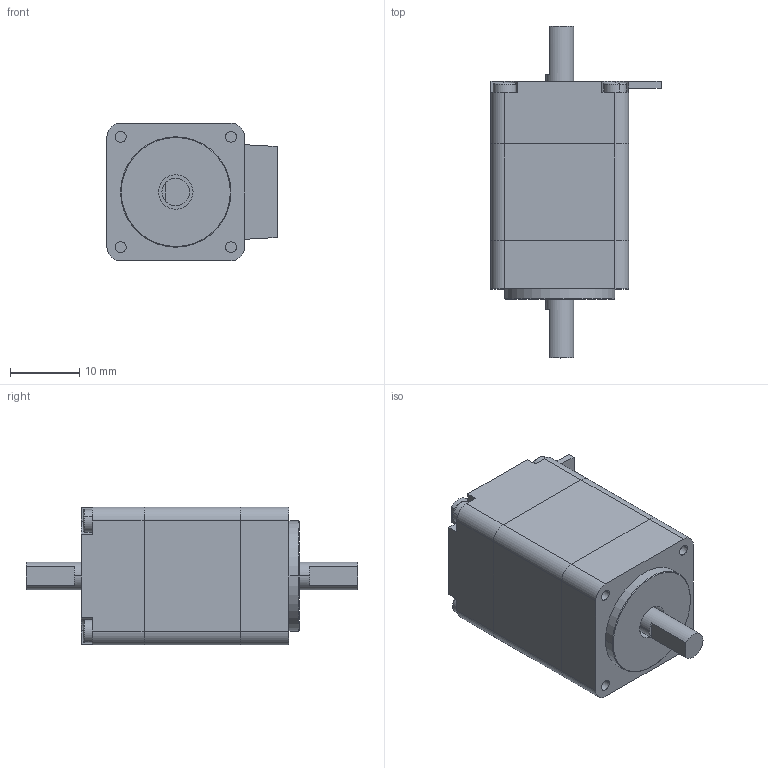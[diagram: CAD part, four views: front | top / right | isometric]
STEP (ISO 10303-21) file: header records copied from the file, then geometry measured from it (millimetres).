
FILE_DESCRIPTION (( 'STEP AP203' ), '1' );
FILE_NAME ('20CM002-D V3.0.STEP', '2026-09-09T05:38:54', ( 'YOS' ), ( 'MS' ), 'SwSTEP 2.0', 'SolidWorks 2023', '' );
FILE_SCHEMA (( 'CONFIG_CONTROL_DESIGN' ));
Length unit declared in the file: millimetre
Products named in the file (5): 20CM002-D V3.0; 20五相定子-H14; 20五相前端盖（出轴L8.5）; M2X25螺丝; 20五相后端盖（出轴L8）
Assembly tree (7 placements, depth 2):
  20CM002-D V3.0
    20五相定子-H14
    20五相后端盖（出轴L8）
    20五相前端盖（出轴L8.5）
    M2X25螺丝  x4
Bounding box: 24.65 x 48.1 x 19.95 mm (x, y, z)
Volume: 11702.8 mm3; surface area: 6950.2 mm2
Topology: 9 solids, 9 shells, 243 faces, 634 edges, 418 vertices
Faces by surface type: cylinder 120, plane 113, torus 8, cone 2
Entity records: 5065 total; most frequent: DIRECTION 826, CARTESIAN_POINT 765, ORIENTED_EDGE 740, EDGE_CURVE 370, AXIS2_PLACEMENT_3D 305, VERTEX_POINT 244, LINE 216, VECTOR 216
